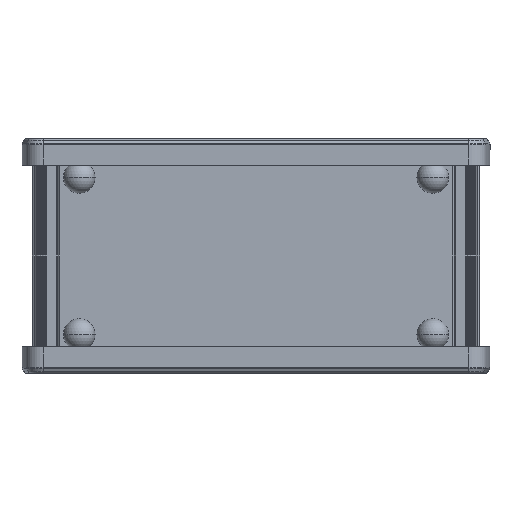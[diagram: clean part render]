
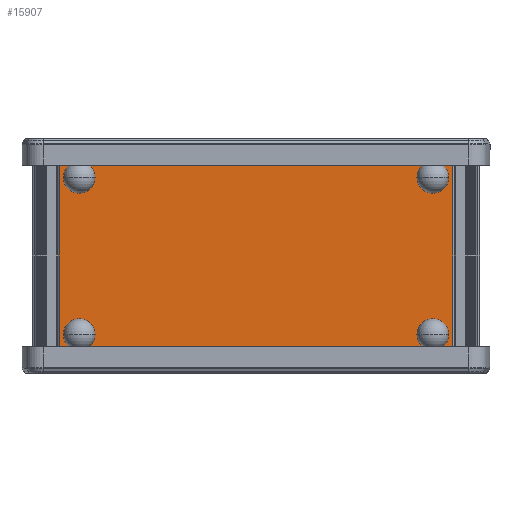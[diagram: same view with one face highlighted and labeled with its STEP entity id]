
A CAD part, front view. The second image highlights one B-rep face of the part: STEP entity #15907.
In plain terms, the highlighted planar face has unit normal (0, -1, 0).
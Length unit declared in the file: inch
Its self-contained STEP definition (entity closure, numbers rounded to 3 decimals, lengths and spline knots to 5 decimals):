
#84 = ORIENTED_EDGE ( 'NONE', *, *, #6382, .F. ) ;
#2156 = PLANE ( 'NONE',  #13804 ) ;
#4471 = CARTESIAN_POINT ( 'NONE',  ( 2.94289, -1.05322, 1.5748 ) ) ;
#5250 = ORIENTED_EDGE ( 'NONE', *, *, #8550, .T. ) ;
#5692 = LINE ( 'NONE', #4471, #22193 ) ;
#6324 = DIRECTION ( 'NONE',  ( 0., 1., 0. ) ) ;
#6382 = EDGE_CURVE ( 'NONE', #25425, #20056, #17167, .T. ) ;
#6412 = CARTESIAN_POINT ( 'NONE',  ( 2.94289, -1.05322, 1.5748 ) ) ;
#7112 = CARTESIAN_POINT ( 'NONE',  ( -2.94288, -1.05322, -1.5748 ) ) ;
#8076 = VECTOR ( 'NONE', #16249, 39.37008 ) ;
#8550 = EDGE_CURVE ( 'NONE', #22019, #10377, #22979, .T. ) ;
#9466 = FACE_OUTER_BOUND ( 'NONE', #16262, .T. ) ;
#10064 = EDGE_CURVE ( 'NONE', #20056, #10377, #5692, .T. ) ;
#10377 = VERTEX_POINT ( 'NONE', #20225 ) ;
#10699 = VECTOR ( 'NONE', #19351, 39.37008 ) ;
#13638 = LINE ( 'NONE', #16162, #8076 ) ;
#13779 = ORIENTED_EDGE ( 'NONE', *, *, #22832, .T. ) ;
#13804 = AXIS2_PLACEMENT_3D ( 'NONE', #24685, #6324, #24304 ) ;
#15772 = DIRECTION ( 'NONE',  ( 0., 0., -1. ) ) ;
#15907 = ADVANCED_FACE ( 'NONE', ( #9466 ), #2156, .F. ) ;
#16162 = CARTESIAN_POINT ( 'NONE',  ( -2.94288, -1.05322, 1.5748 ) ) ;
#16249 = DIRECTION ( 'NONE',  ( 0., 0., -1. ) ) ;
#16262 = EDGE_LOOP ( 'NONE', ( #5250, #18195, #84, #13779 ) ) ;
#16468 = VECTOR ( 'NONE', #26664, 39.37008 ) ;
#17016 = CARTESIAN_POINT ( 'NONE',  ( -2.94288, -1.05322, -1.5748 ) ) ;
#17167 = LINE ( 'NONE', #17608, #16468 ) ;
#17608 = CARTESIAN_POINT ( 'NONE',  ( -2.94288, -1.05322, 1.5748 ) ) ;
#17872 = CARTESIAN_POINT ( 'NONE',  ( -2.94288, -1.05322, 1.5748 ) ) ;
#18195 = ORIENTED_EDGE ( 'NONE', *, *, #10064, .F. ) ;
#19351 = DIRECTION ( 'NONE',  ( 1., 0., 0. ) ) ;
#20056 = VERTEX_POINT ( 'NONE', #6412 ) ;
#20225 = CARTESIAN_POINT ( 'NONE',  ( 2.94289, -1.05322, -1.5748 ) ) ;
#22019 = VERTEX_POINT ( 'NONE', #7112 ) ;
#22193 = VECTOR ( 'NONE', #15772, 39.37008 ) ;
#22832 = EDGE_CURVE ( 'NONE', #25425, #22019, #13638, .T. ) ;
#22979 = LINE ( 'NONE', #17016, #10699 ) ;
#24304 = DIRECTION ( 'NONE',  ( 0., 0., 1. ) ) ;
#24685 = CARTESIAN_POINT ( 'NONE',  ( -2.94288, -1.05322, 1.5748 ) ) ;
#25425 = VERTEX_POINT ( 'NONE', #17872 ) ;
#26664 = DIRECTION ( 'NONE',  ( 1., 0., 0. ) ) ;
